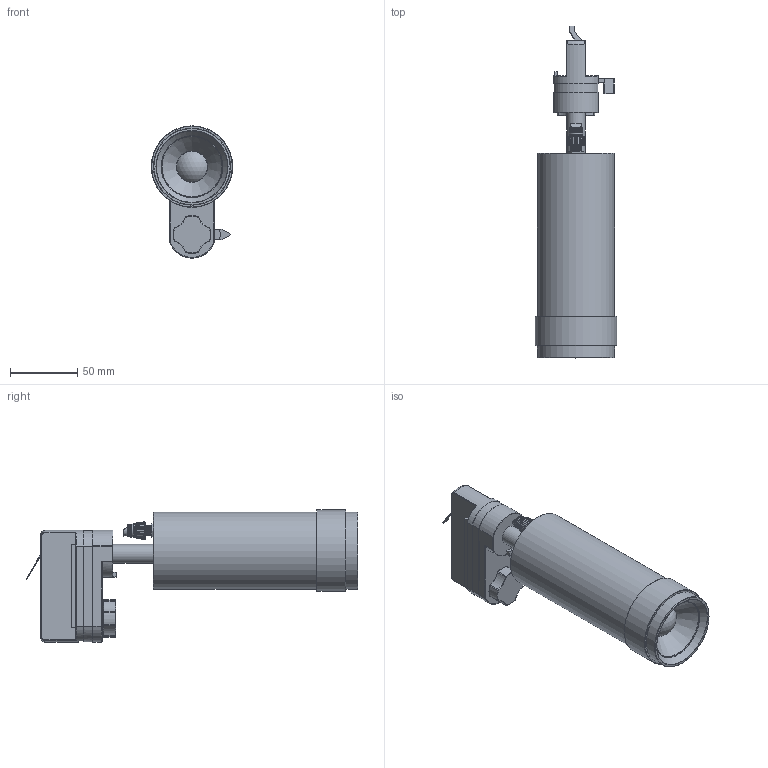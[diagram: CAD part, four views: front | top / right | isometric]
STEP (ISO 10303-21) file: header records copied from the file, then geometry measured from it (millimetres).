
FILE_DESCRIPTION (( 'STEP AP214' ), '1' );
FILE_NAME ('spacegun10.STEP', '2025-04-01T05:52:16', ( '' ), ( '' ), 'SwSTEP 2.0', 'SolidWorks 2023', '' );
FILE_SCHEMA (( 'AUTOMOTIVE_DESIGN' ));
Length unit declared in the file: millimetre
Products named in the file (4): spacegun10; 轨道头; 灯筒 2; 旋钮
Assembly tree (3 placements, depth 2):
  spacegun10
    灯筒 2
    旋钮
    轨道头
Bounding box: 60.5 x 246.5 x 98.15 mm (x, y, z)
Volume: 462211.9 mm3; surface area: 67433.1 mm2
Topology: 3 solids, 3 shells, 875 faces, 2450 edges, 1599 vertices
Faces by surface type: plane 296, cylinder 205, cone 189, torus 169, sphere 9, bspline 7
Full cylindrical faces by diameter (mm): 4.789 x1, 7 x2, 10 x1, 14 x2, 23 x1, 45.2 x1, 54.2 x1, 57.2 x2, 60.5 x1
Entity records: 31119 total; most frequent: CARTESIAN_POINT 9207, ORIENTED_EDGE 4818, DIRECTION 4361, EDGE_CURVE 2409, AXIS2_PLACEMENT_3D 1671, VERTEX_POINT 1588, LINE 1019, VECTOR 1019
